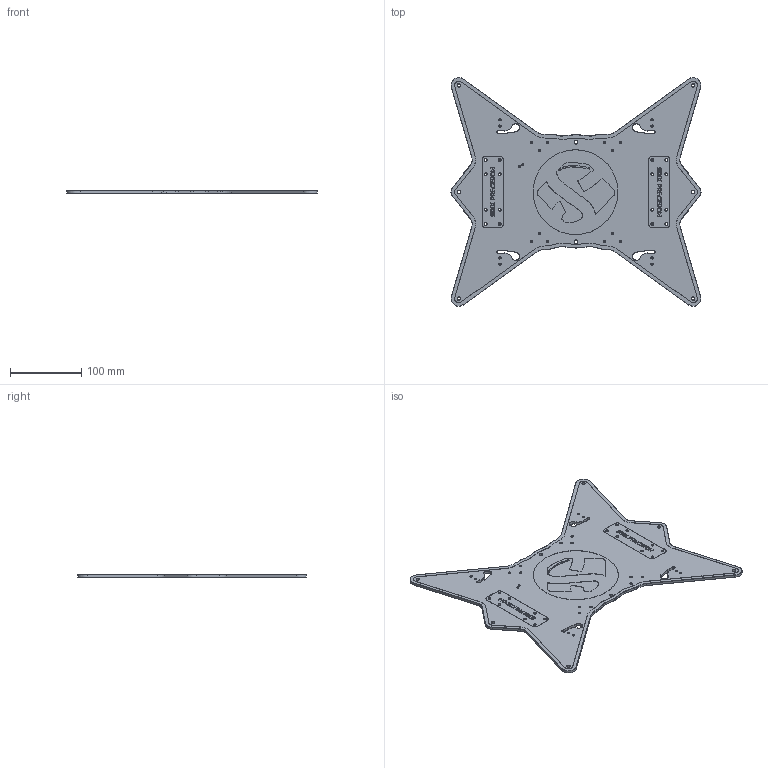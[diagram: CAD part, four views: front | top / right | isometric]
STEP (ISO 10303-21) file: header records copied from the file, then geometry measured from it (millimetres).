
FILE_DESCRIPTION(/* description */ (''),/* implementation_level */ '2;1');
FILE_NAME(/* name */ 'Y Carriage 4mm_Laser.step',/* time_stamp */ '2023-07-15T18:54:20+02:00',/* author */ (''),/* organization */ (''),/* preprocessor_version */ 'ST-DEVELOPER v19.2',/* originating_system */ 'Autodesk Translation Framework v12.6.0.85',/* authorisation */ '');
FILE_SCHEMA (('AUTOMOTIVE_DESIGN { 1 0 10303 214 3 1 1 }'));
Products named in the file (1): Y Carriage 4mm alu_V2
Bounding box: 352 x 321.98 x 4 mm (x, y, z)
Volume: 276014.9 mm3; surface area: 148069.4 mm2
Topology: 1 solids, 1 shells, 1590 faces, 4318 edges, 2808 vertices
Faces by surface type: plane 638, bspline 628, cylinder 176, cone 148
Full cylindrical faces by diameter (mm): 2.529 x14, 3.3 x8, 3.5 x16, 4.5 x8, 119.418 x1, 119.518 x1
Entity records: 58924 total; most frequent: CARTESIAN_POINT 23916, ORIENTED_EDGE 8636, DIRECTION 5292, EDGE_CURVE 4318, VERTEX_POINT 2808, LINE 2358, VECTOR 2358, EDGE_LOOP 1768
